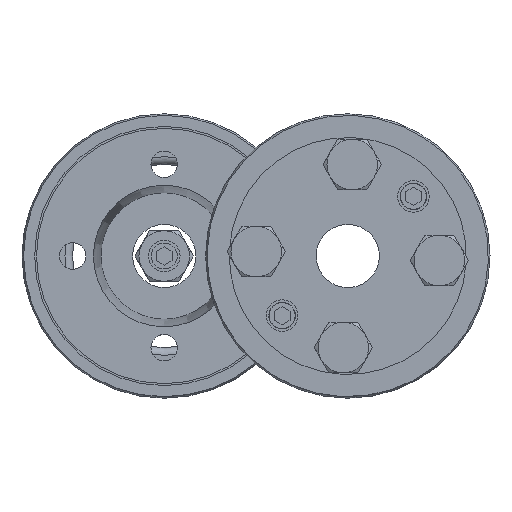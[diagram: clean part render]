
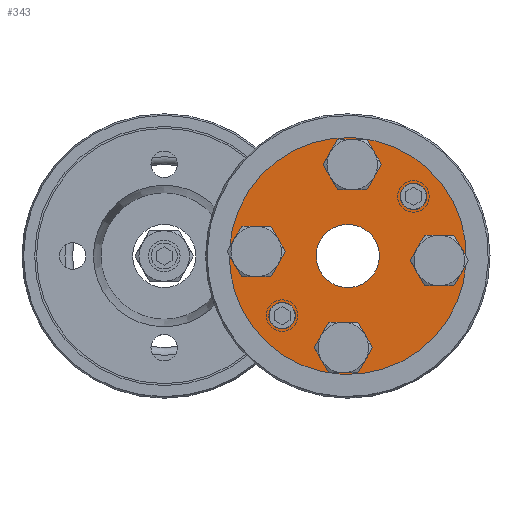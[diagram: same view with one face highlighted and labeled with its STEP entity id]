
A CAD part, left-side view. The second image highlights one B-rep face of the part: STEP entity #343.
In plain terms, the highlighted planar face has unit normal (-1, 0, 0).
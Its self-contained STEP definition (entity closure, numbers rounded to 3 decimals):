
#343 = ADVANCED_FACE( 'NONE', ( #538, #539, #540, #541, #542, #543, #544, #545 ), #546, .F. );
#538 = FACE_OUTER_BOUND( '', #856, .T. );
#539 = FACE_BOUND( '', #857, .T. );
#540 = FACE_BOUND( '', #858, .T. );
#541 = FACE_BOUND( '', #859, .T. );
#542 = FACE_BOUND( '', #860, .T. );
#543 = FACE_BOUND( '', #861, .T. );
#544 = FACE_BOUND( '', #862, .T. );
#545 = FACE_BOUND( '', #863, .T. );
#546 = PLANE( '', #864 );
#856 = EDGE_LOOP( '', ( #1195 ) );
#857 = EDGE_LOOP( '', ( #1196 ) );
#858 = EDGE_LOOP( '', ( #1197 ) );
#859 = EDGE_LOOP( '', ( #1198 ) );
#860 = EDGE_LOOP( '', ( #1199 ) );
#861 = EDGE_LOOP( '', ( #1200 ) );
#862 = EDGE_LOOP( '', ( #1201 ) );
#863 = EDGE_LOOP( '', ( #1202 ) );
#864 = AXIS2_PLACEMENT_3D( '', #1203, #1204, #1205 );
#1195 = ORIENTED_EDGE( '', *, *, #1811, .T. );
#1196 = ORIENTED_EDGE( '', *, *, #1812, .F. );
#1197 = ORIENTED_EDGE( '', *, *, #1809, .F. );
#1198 = ORIENTED_EDGE( '', *, *, #1807, .F. );
#1199 = ORIENTED_EDGE( '', *, *, #1813, .F. );
#1200 = ORIENTED_EDGE( '', *, *, #1814, .F. );
#1201 = ORIENTED_EDGE( '', *, *, #1805, .F. );
#1202 = ORIENTED_EDGE( '', *, *, #1815, .F. );
#1203 = CARTESIAN_POINT( '', ( 19.839, 18.75, 0. ) );
#1204 = DIRECTION( '', ( 1., 0., 0. ) );
#1205 = DIRECTION( '', ( 0., 1., 0. ) );
#1805 = EDGE_CURVE( 'NONE', #1971, #1971, #1972, .T. );
#1807 = EDGE_CURVE( 'NONE', #1975, #1975, #1976, .T. );
#1809 = EDGE_CURVE( 'NONE', #1979, #1979, #1980, .T. );
#1811 = EDGE_CURVE( 'NONE', #1983, #1983, #1984, .T. );
#1812 = EDGE_CURVE( 'NONE', #1985, #1985, #1986, .T. );
#1813 = EDGE_CURVE( 'NONE', #1987, #1987, #1988, .T. );
#1814 = EDGE_CURVE( 'NONE', #1989, #1989, #1990, .T. );
#1815 = EDGE_CURVE( 'NONE', #1991, #1991, #1992, .T. );
#1971 = VERTEX_POINT( '', #2223 );
#1972 = CIRCLE( '', #2224, 2.75 );
#1975 = VERTEX_POINT( '', #2227 );
#1976 = CIRCLE( '', #2228, 5. );
#1979 = VERTEX_POINT( '', #2231 );
#1980 = CIRCLE( '', #2232, 2.75 );
#1983 = VERTEX_POINT( '', #2235 );
#1984 = CIRCLE( '', #2236, 18.75 );
#1985 = VERTEX_POINT( '', #2237 );
#1986 = CIRCLE( '', #2238, 2.75 );
#1987 = VERTEX_POINT( '', #2239 );
#1988 = CIRCLE( '', #2240, 2.75 );
#1989 = VERTEX_POINT( '', #2241 );
#1990 = CIRCLE( '', #2242, 2.1 );
#1991 = VERTEX_POINT( '', #2243 );
#1992 = CIRCLE( '', #2244, 2.1 );
#2223 = CARTESIAN_POINT( '', ( 19.839, -14.5, 2.75 ) );
#2224 = AXIS2_PLACEMENT_3D( '', #2531, #2532, #2533 );
#2227 = CARTESIAN_POINT( '', ( 19.839, 0., 5. ) );
#2228 = AXIS2_PLACEMENT_3D( '', #2537, #2538, #2539 );
#2231 = CARTESIAN_POINT( '', ( 19.839, 0., -11.75 ) );
#2232 = AXIS2_PLACEMENT_3D( '', #2543, #2544, #2545 );
#2235 = CARTESIAN_POINT( '', ( 19.839, 0., 18.75 ) );
#2236 = AXIS2_PLACEMENT_3D( '', #2549, #2550, #2551 );
#2237 = CARTESIAN_POINT( '', ( 19.839, 0., 17.25 ) );
#2238 = AXIS2_PLACEMENT_3D( '', #2552, #2553, #2554 );
#2239 = CARTESIAN_POINT( '', ( 19.839, 14.5, 2.75 ) );
#2240 = AXIS2_PLACEMENT_3D( '', #2555, #2556, #2557 );
#2241 = CARTESIAN_POINT( '', ( 19.839, 9.92, 12.02 ) );
#2242 = AXIS2_PLACEMENT_3D( '', #2558, #2559, #2560 );
#2243 = CARTESIAN_POINT( '', ( 19.839, -9.92, -7.82 ) );
#2244 = AXIS2_PLACEMENT_3D( '', #2561, #2562, #2563 );
#2531 = CARTESIAN_POINT( '', ( 19.839, -14.5, 0. ) );
#2532 = DIRECTION( '', ( -1., 0., 0. ) );
#2533 = DIRECTION( '', ( 0., 0., 1. ) );
#2537 = CARTESIAN_POINT( '', ( 19.839, 0., 0. ) );
#2538 = DIRECTION( '', ( -1., 0., 0. ) );
#2539 = DIRECTION( '', ( 0., 0., 1. ) );
#2543 = CARTESIAN_POINT( '', ( 19.839, 0., -14.5 ) );
#2544 = DIRECTION( '', ( -1., 0., 0. ) );
#2545 = DIRECTION( '', ( 0., 0., 1. ) );
#2549 = CARTESIAN_POINT( '', ( 19.839, 0., 0. ) );
#2550 = DIRECTION( '', ( -1., 0., 0. ) );
#2551 = DIRECTION( '', ( 0., 0., 1. ) );
#2552 = CARTESIAN_POINT( '', ( 19.839, 0., 14.5 ) );
#2553 = DIRECTION( '', ( -1., 0., 0. ) );
#2554 = DIRECTION( '', ( 0., 0., 1. ) );
#2555 = CARTESIAN_POINT( '', ( 19.839, 14.5, 0. ) );
#2556 = DIRECTION( '', ( -1., 0., 0. ) );
#2557 = DIRECTION( '', ( 0., 0., 1. ) );
#2558 = CARTESIAN_POINT( '', ( 19.839, 9.92, 9.92 ) );
#2559 = DIRECTION( '', ( -1., 0., 0. ) );
#2560 = DIRECTION( '', ( 0., 0., 1. ) );
#2561 = CARTESIAN_POINT( '', ( 19.839, -9.92, -9.92 ) );
#2562 = DIRECTION( '', ( -1., 0., 0. ) );
#2563 = DIRECTION( '', ( 0., 0., 1. ) );
